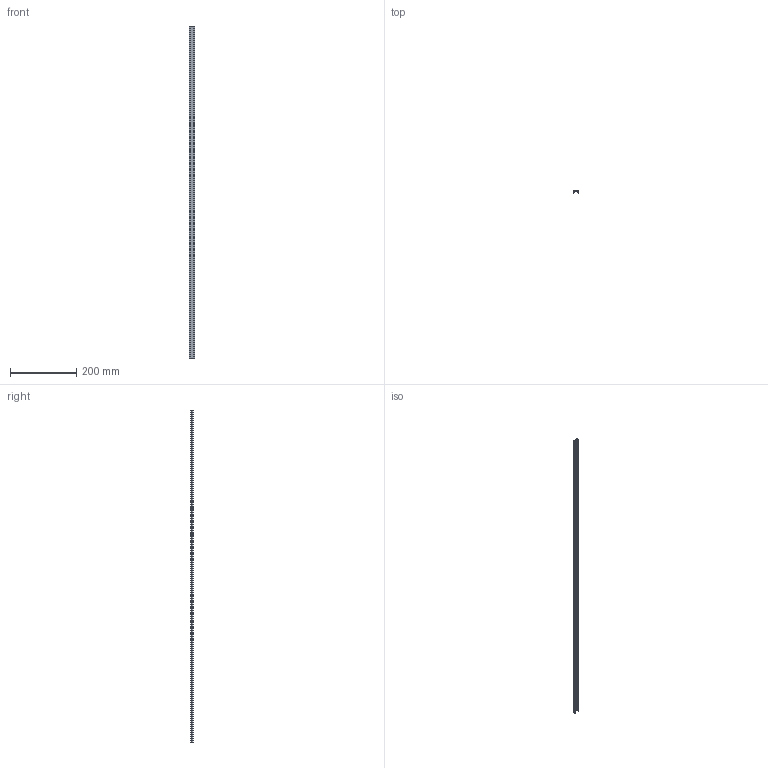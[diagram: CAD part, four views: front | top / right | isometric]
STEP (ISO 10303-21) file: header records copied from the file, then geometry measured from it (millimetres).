
FILE_DESCRIPTION(('STEP AP214'),'1');
FILE_NAME('ILK-FLEXEXT-1000-001_extrusion_Step.stp','2016-10-21T14:43:49',(' '),(' '),'Spatial InterOp 3D',' ',' ');
FILE_SCHEMA(('automotive_design'));
Length unit declared in the file: metre
Products named in the file (2): Solid; 1
Bounding box: 16.66 x 8.9 x 1000 mm (x, y, z)
Volume: 45777.4 mm3; surface area: 81867.1 mm2
Topology: 1 solids, 1 shells, 73 faces, 282 edges, 280 vertices
Faces by surface type: plane 46, cylinder 27
Entity records: 4246 total; most frequent: DIRECTION 511, CARTESIAN_POINT 499, ORIENTED_EDGE 426, EDGE_CURVE 213, STYLED_ITEM 212, PRESENTATION_STYLE_ASSIGNMENT 212, COLOUR_RGB 212, LINE 203
